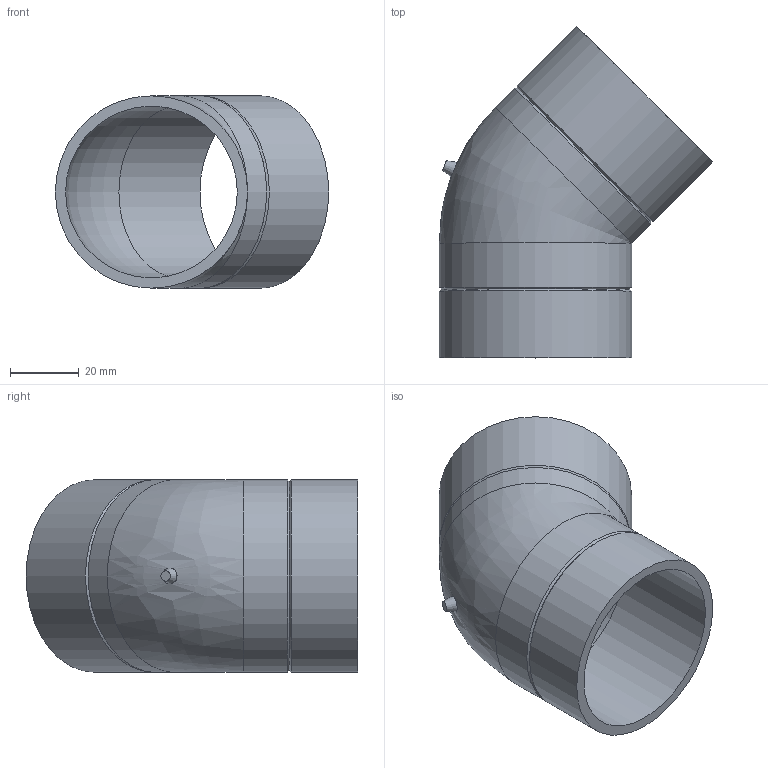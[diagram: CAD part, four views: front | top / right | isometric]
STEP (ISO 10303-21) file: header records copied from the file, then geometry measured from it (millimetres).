
FILE_DESCRIPTION(/* description */ (''),/* implementation_level */ '2;1');
FILE_NAME(/* name */ 'Z:\Geberit\Export\NewStep\PE Bogen Einzelteil_Ipart\stp\363045.stp',/* time_stamp */ '2014-04-02T11:56:24+02:00',/* author */ ('bruh'),/* organization */ (''),/* preprocessor_version */ 'ST-DEVELOPER v15.2',/* originating_system */ 'Autodesk Inventor 2014',/* authorisation */ '');
FILE_SCHEMA (('AUTOMOTIVE_DESIGN { 1 0 10303 214 3 1 1 }'));
Length unit declared in the file: millimetre
Products named in the file (1): 363045
Bounding box: 79.62 x 96.62 x 56 mm (x, y, z)
Volume: 44378.3 mm3; surface area: 30764.5 mm2
Topology: 1 solids, 1 shells, 16 faces, 32 edges, 17 vertices
Faces by surface type: cylinder 6, cone 5, plane 3, torus 1, bspline 1
Full cylindrical faces by diameter (mm): 50 x2, 56 x4
Entity records: 475 total; most frequent: CARTESIAN_POINT 169, DIRECTION 62, ORIENTED_EDGE 32, EDGE_LOOP 31, AXIS2_PLACEMENT_3D 31, FACE_BOUND 18, STYLED_ITEM 17, EDGE_CURVE 16
